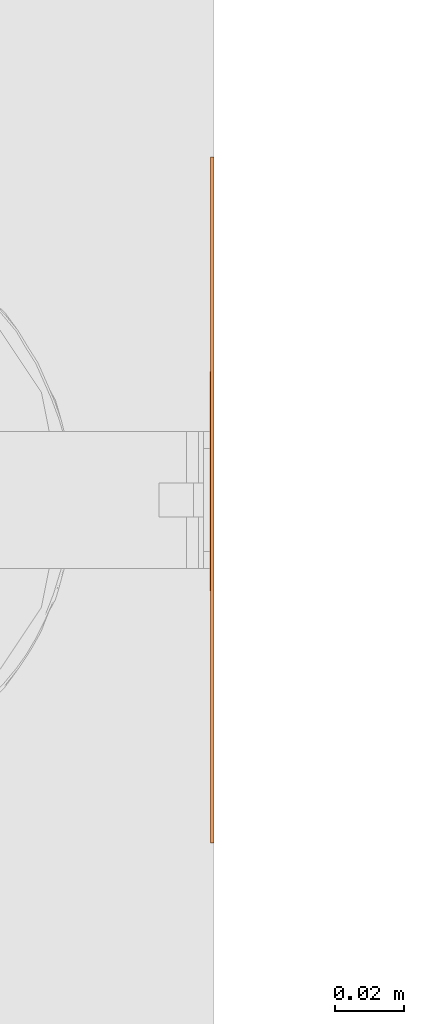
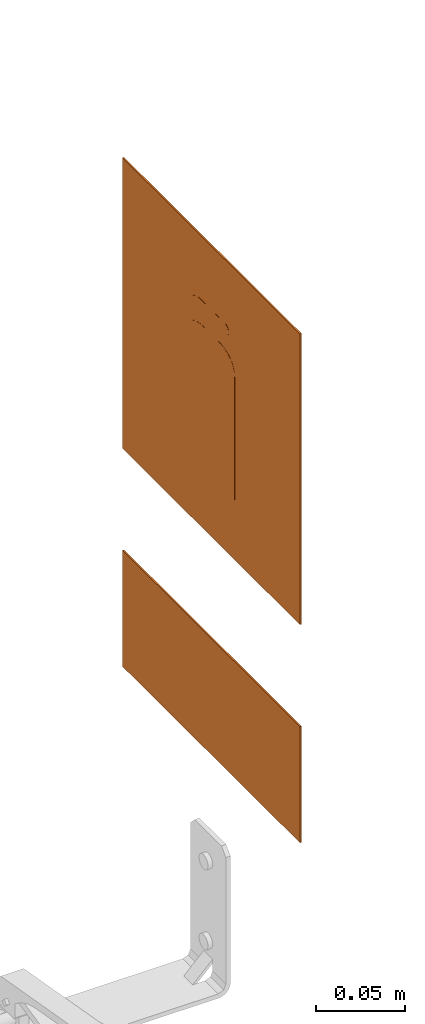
# One storey, part 28 of 119: 2 proxies.
"""IFC2X3 building model written with IfcOpenShell, lengths in metres."""

from ifc_helpers import new_model, entity, si_unit, converted_unit, derived_unit, direction, frame, frame_2d, origin, origin_2d_with_axis, place, context, subcontext, project, spatial, polyline, circle_curve, parameter, trimmed, segment, composite_curve, rectangle, outline, extrude, source, transform, mapped, material, material_list, type_object, type_shapes, element, save


model = new_model("IFC2X3")

# Units and contexts
model_context = context("Model", 3, precision=1e-05, world=origin(), true_north=direction((6.12303176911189e-17, 1.0)))
body_context = subcontext(model_context, "Body", "Model", "MODEL_VIEW")
ifc_project = project(units=[si_unit("LENGTHUNIT", "METRE"), si_unit("AREAUNIT", "SQUARE_METRE"), si_unit("VOLUMEUNIT", "CUBIC_METRE"), converted_unit("PLANEANGLEUNIT", "DEGREE", entity("IfcRatioMeasure", 0.0174532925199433), si_unit("PLANEANGLEUNIT", "RADIAN"), dimensions=[0, 0, 0, 0, 0, 0, 0]), si_unit("MASSUNIT", "GRAM", prefix="KILO"), derived_unit("MASSDENSITYUNIT", [(si_unit("MASSUNIT", "GRAM", prefix="KILO"), 1), (si_unit("LENGTHUNIT", "METRE"), -3)]), derived_unit("MOMENTOFINERTIAUNIT", [(si_unit("LENGTHUNIT", "METRE"), 4)]), si_unit("TIMEUNIT", "SECOND"), si_unit("FREQUENCYUNIT", "HERTZ"), si_unit("THERMODYNAMICTEMPERATUREUNIT", "DEGREE_CELSIUS"), derived_unit("THERMALTRANSMITTANCEUNIT", [(si_unit("MASSUNIT", "GRAM", prefix="KILO"), 1), (si_unit("THERMODYNAMICTEMPERATUREUNIT", "KELVIN"), -1), (si_unit("TIMEUNIT", "SECOND"), -3)]), derived_unit("VOLUMETRICFLOWRATEUNIT", [(si_unit("LENGTHUNIT", "METRE"), 3), (si_unit("TIMEUNIT", "SECOND"), -1)]), si_unit("ELECTRICCURRENTUNIT", "AMPERE"), si_unit("ELECTRICVOLTAGEUNIT", "VOLT"), si_unit("POWERUNIT", "WATT"), si_unit("FORCEUNIT", "NEWTON", prefix="KILO"), si_unit("ILLUMINANCEUNIT", "LUX"), si_unit("LUMINOUSFLUXUNIT", "LUMEN"), si_unit("LUMINOUSINTENSITYUNIT", "CANDELA"), derived_unit("USERDEFINED", [(si_unit("MASSUNIT", "GRAM", prefix="KILO"), -1), (si_unit("LENGTHUNIT", "METRE"), -2), (si_unit("TIMEUNIT", "SECOND"), 3), (si_unit("LUMINOUSFLUXUNIT", "LUMEN"), 1)]), derived_unit("LINEARVELOCITYUNIT", [(si_unit("LENGTHUNIT", "METRE"), 1), (si_unit("TIMEUNIT", "SECOND"), -1)]), si_unit("PRESSUREUNIT", "PASCAL"), derived_unit("USERDEFINED", [(si_unit("LENGTHUNIT", "METRE"), -2), (si_unit("MASSUNIT", "GRAM", prefix="KILO"), 1), (si_unit("TIMEUNIT", "SECOND"), -2)]), derived_unit("LINEARFORCEUNIT", [(si_unit("MASSUNIT", "GRAM", prefix="KILO"), 1), (si_unit("LENGTHUNIT", "METRE"), 1), (si_unit("TIMEUNIT", "SECOND"), -2), (si_unit("LENGTHUNIT", "METRE"), -1)]), derived_unit("PLANARFORCEUNIT", [(si_unit("MASSUNIT", "GRAM", prefix="KILO"), 1), (si_unit("LENGTHUNIT", "METRE"), 1), (si_unit("TIMEUNIT", "SECOND"), -2), (si_unit("LENGTHUNIT", "METRE"), -2)])], contexts=[model_context])

# Site, building, storey
site_placement = place(None, origin())
site = spatial("IfcSite", under=ifc_project, at=site_placement, Name="Default", CompositionType="ELEMENT")
building_placement = place(site_placement, origin())
building = spatial("IfcBuilding", under=site, at=building_placement, CompositionType="ELEMENT")
storey_placement = place(building_placement, origin())
storey = spatial("IfcBuildingStorey", under=building, at=storey_placement, Name="PAV. 01 - TÉRREO", CompositionType="ELEMENT", Elevation=0.0)

# Proxies
ifc_material_1 = material(Name="Plastico branco")
ifc_material_2 = material(Name="Plastico vermelho")
ifc_material_list_1 = material_list([ifc_material_1, ifc_material_2])
building_element_proxy_type_1 = type_object("IfcBuildingElementProxyType", Name="Sinalização de equipamentos - E05 - Extintor de incêndio:Distância 08m", PredefinedType="NOTDEFINED", material=ifc_material_1)
shared_shape_1 = source(origin(), body_context, "Body", "SweptSolid", [
    extrude(outline(composite_curve([segment(polyline([(-0.039533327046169, -0.0988107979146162), (0.0136590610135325, -0.0988107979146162)]), True, "CONTINUOUS"), segment(polyline([(0.0136590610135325, -0.0988107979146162), (0.0136590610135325, -0.0150548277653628)]), True, "CONTINUOUS"), segment(polyline([(0.0136590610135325, -0.0150548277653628), (0.0132403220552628, -0.0112272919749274)]), True, "CONTINUOUS"), segment(polyline([(0.0132403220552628, -0.0112272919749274), (0.0119841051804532, -0.00798860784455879)]), True, "CONTINUOUS"), segment(polyline([(0.0119841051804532, -0.00798860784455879), (0.00989041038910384, -0.00533877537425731)]), True, "CONTINUOUS"), segment(polyline([(0.00989041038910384, -0.00533877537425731), (0.00695923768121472, -0.00327779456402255)]), True, "CONTINUOUS"), segment(polyline([(0.00695923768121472, -0.00327779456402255), (0.00319058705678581, -0.00180566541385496)]), True, "CONTINUOUS"), segment(polyline([(0.00319058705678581, -0.00180566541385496), (-0.00141554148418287, -0.000922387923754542)]), True, "CONTINUOUS"), segment(polyline([(-0.00141554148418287, -0.000922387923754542), (-0.00685914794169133, -0.000627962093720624)]), True, "CONTINUOUS"), segment(polyline([(-0.00685914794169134, -0.000627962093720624), (-0.00685914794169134, 0.00837547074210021)]), True, "CONTINUOUS"), segment(polyline([(-0.00685914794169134, 0.00837547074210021), (0.000568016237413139, 0.00837547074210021)]), True, "CONTINUOUS"), segment(polyline([(0.000568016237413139, 0.00837547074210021), (0.021500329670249, -0.0075875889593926)]), True, "CONTINUOUS"), segment(polyline([(0.021500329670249, -0.0075875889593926), (0.021500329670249, -0.0104328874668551)]), True, "CONTINUOUS"), segment(polyline([(0.021500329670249, -0.0104328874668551), (0.0245059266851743, -0.0104328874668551)]), True, "CONTINUOUS"), segment(polyline([(0.0245059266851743, -0.0104328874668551), (0.0245059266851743, -0.00811335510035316)]), True, "CONTINUOUS"), segment(polyline([(0.0245059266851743, -0.00811335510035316), (0.0243642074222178, -0.00545038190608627)]), True, "CONTINUOUS"), segment(polyline([(0.0243642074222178, -0.00545038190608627), (0.0239570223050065, -0.0032112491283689)]), True, "CONTINUOUS"), segment(polyline([(0.0239570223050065, -0.0032112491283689), (0.0233113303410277, -0.00132119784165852)]), True, "CONTINUOUS"), segment(polyline([(0.0233113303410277, -0.00132119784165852), (0.0224540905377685, 0.00029453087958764)]), True, "CONTINUOUS"), segment(polyline([(0.0224540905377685, 0.00029453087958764), (0.0214122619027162, 0.00171069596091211)]), True, "CONTINUOUS"), segment(polyline([(0.0214122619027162, 0.00171069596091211), (0.0202128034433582, 0.00300205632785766)]), True, "CONTINUOUS"), segment(polyline([(0.0202128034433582, 0.00300205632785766), (0.0188826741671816, 0.00424337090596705)]), True, "CONTINUOUS"), segment(polyline([(0.0188826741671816, 0.00424337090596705), (0.0144021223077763, 0.00811180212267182)]), True, "CONTINUOUS"), segment(polyline([(0.0144021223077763, 0.00811180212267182), (0.0113518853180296, 0.0106145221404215)]), True, "CONTINUOUS"), segment(polyline([(0.0113518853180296, 0.0106145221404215), (0.0085825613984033, 0.0127576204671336)]), True, "CONTINUOUS"), segment(polyline([(0.0085825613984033, 0.0127576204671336), (0.00738733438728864, 0.0136170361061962)]), True, "CONTINUOUS"), segment(polyline([(0.00738733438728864, 0.0136170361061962), (0.00631521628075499, 0.0143235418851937)]), True, "CONTINUOUS"), segment(polyline([(0.00631521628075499, 0.0143235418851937), (0.00532850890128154, 0.0148903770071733)]), True, "CONTINUOUS"), segment(polyline([(0.00532850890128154, 0.0148903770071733), (0.00438926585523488, 0.0153309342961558)]), True, "CONTINUOUS"), segment(polyline([(0.00438926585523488, 0.0153309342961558), (0.00345954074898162, 0.0156586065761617)]), True, "CONTINUOUS"), segment(polyline([(0.00345954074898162, 0.0156586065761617), (0.00250138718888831, 0.0158867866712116)]), True, "CONTINUOUS"), segment(polyline([(0.00250138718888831, 0.0158867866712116), (0.00144087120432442, 0.0160289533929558)]), True, "CONTINUOUS"), segment(polyline([(0.00144087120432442, 0.0160289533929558), (-0.000108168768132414, 0.0160993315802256)]), True, "CONTINUOUS"), segment(polyline([(-0.000108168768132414, 0.0160993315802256), (-0.00685914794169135, 0.0160831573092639)]), True, "CONTINUOUS"), segment(polyline([(-0.00685914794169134, 0.0160831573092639), (-0.00685914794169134, 0.0213863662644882)]), True, "CONTINUOUS"), segment(polyline([(-0.00685914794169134, 0.0213863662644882), (-0.0177728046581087, 0.0213863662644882)]), True, "CONTINUOUS"), segment(polyline([(-0.0177728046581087, 0.0213863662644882), (-0.0177728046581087, 0.0160831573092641)]), True, "CONTINUOUS"), segment(polyline([(-0.0177728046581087, 0.0160831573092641), (-0.0288467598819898, 0.0160831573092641)]), True, "CONTINUOUS"), segment(trimmed(circle_curve(frame_2d((-0.0288467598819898, 0.0122293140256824), x_axis=(-1.0, 0.0)), 0.00385384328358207), [parameter(270.0)], [parameter(90.0000000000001)], True, "PARAMETER"), True, "CONTINUOUS"), segment(polyline([(-0.0288467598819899, 0.00837547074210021), (-0.0190151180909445, 0.00837547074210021)]), True, "CONTINUOUS"), segment(polyline([(-0.0190151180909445, 0.00837547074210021), (-0.0190151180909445, -0.000627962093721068)]), True, "CONTINUOUS"), segment(polyline([(-0.0190151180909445, -0.000627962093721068), (-0.024458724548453, -0.000922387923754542)]), True, "CONTINUOUS"), segment(polyline([(-0.024458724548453, -0.000922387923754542), (-0.0290648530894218, -0.00180566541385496)]), True, "CONTINUOUS"), segment(polyline([(-0.0290648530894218, -0.00180566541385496), (-0.0328335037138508, -0.00327779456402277)]), True, "CONTINUOUS"), segment(polyline([(-0.0328335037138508, -0.00327779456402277), (-0.03576467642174, -0.00533877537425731)]), True, "CONTINUOUS"), segment(polyline([(-0.03576467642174, -0.00533877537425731), (-0.0378583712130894, -0.00798860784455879)]), True, "CONTINUOUS"), segment(polyline([(-0.0378583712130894, -0.00798860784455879), (-0.0391145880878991, -0.0112272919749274)]), True, "CONTINUOUS"), segment(polyline([(-0.0391145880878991, -0.0112272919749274), (-0.039533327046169, -0.0150548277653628)]), True, "CONTINUOUS"), segment(polyline([(-0.039533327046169, -0.0150548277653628), (-0.039533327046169, -0.0988107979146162)]), True, "CONTINUOUS")], self_intersect=False)), frame((-0.0129371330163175, -0.0011, 1.94006139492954), z_axis=(0.0, 1.0, 0.0), x_axis=(-1.0, 0.0, 0.0)), (0.0, 0.0, 1.0), 0.0011),
    extrude(rectangle(XDim=0.001, YDim=0.179, at=origin_2d_with_axis()), frame((0.0, -0.0005, 1.8105), z_axis=(0.0, 0.0, 1.0), x_axis=(0.0, 1.0, 0.0)), (0.0, 0.0, 1.0), 0.179),
    extrude(outline(polyline([(-0.100000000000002, -0.1), (0.100000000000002, -0.1), (0.100000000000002, 0.1), (-0.100000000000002, 0.1), (-0.100000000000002, -0.1)]), holes=[polyline([(-0.0895000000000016, -0.0895000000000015), (-0.0895000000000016, 0.0894999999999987), (0.0894999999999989, 0.0894999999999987), (0.0894999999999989, -0.0895000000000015), (-0.0895000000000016, -0.0895000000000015)])]), frame((0.0, -0.001, 1.9), z_axis=(0.0, 1.0, 0.0), x_axis=(0.0, 0.0, -1.0)), (0.0, 0.0, 1.0), 0.001),
])
type_shapes(building_element_proxy_type_1, [shared_shape_1])
proxy_1_placement = place(storey_placement, frame((7.72406052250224, 4.28528889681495, 0.0), z_axis=(0.0, 0.0, 1.0), x_axis=(0.0, -1.0, 0.0)))
element("IfcBuildingElementProxy", 1, at=proxy_1_placement, inside=storey, type_object=building_element_proxy_type_1, material=ifc_material_list_1, Name="Sinalização de equipamentos - E05 - Extintor de incêndio:Distância 08m", ObjectType="Sinalização de equipamentos - E05 - Extintor de incêndio:Distância 08m", context=body_context, shape_type="MappedRepresentation", body=[
    mapped(shared_shape_1, transform((0.0, 0.0, 0.0), scale=1.0)),
])
ifc_material_3 = material(Name="Plastico Preto")
ifc_material_4 = material(Name="Plastico azul claro")
ifc_material_5 = material(Name="Plastico Verde")
ifc_material_list_2 = material_list([ifc_material_3, ifc_material_4, ifc_material_2, ifc_material_1, ifc_material_5])
building_element_proxy_type_2 = type_object("IfcBuildingElementProxyType", Name="Sinalização de equipamentos - E05 - Extintor de incêndio - TIPO 2:Placa de extintor - E6-A", PredefinedType="NOTDEFINED", material=ifc_material_3)
shared_shape_2 = source(origin(), body_context, "Body", "SweptSolid", [
    extrude(rectangle(XDim=0.001, YDim=0.0243464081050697, at=origin_2d_with_axis()), frame((0.0791678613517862, -0.0005, 0.0143679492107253), z_axis=(0.0, 0.0, 1.0), x_axis=(0.0, 1.0, 0.0)), (0.0, 0.0, 1.0), 0.0243153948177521),
    extrude(rectangle(XDim=0.001, YDim=0.0243464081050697, at=origin_2d_with_axis()), frame((0.0514092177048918, -0.0005, 0.0143679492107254), z_axis=(0.0, 0.0, 1.0), x_axis=(0.0, 1.0, 0.0)), (0.0, 0.0, 1.0), 0.0243153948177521),
    extrude(rectangle(XDim=0.001, YDim=0.0243464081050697, at=origin_2d_with_axis()), frame((0.023605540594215, -0.0005, 0.0143679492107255), z_axis=(0.0, 0.0, 1.0), x_axis=(0.0, 1.0, 0.0)), (0.0, 0.0, 1.0), 0.0243153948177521),
    extrude(rectangle(XDim=0.001, YDim=0.0243464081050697, at=origin_2d_with_axis()), frame((-0.00415310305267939, -0.0005, 0.0143679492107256), z_axis=(0.0, 0.0, 1.0), x_axis=(0.0, 1.0, 0.0)), (0.0, 0.0, 1.0), 0.0243153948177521),
    extrude(outline(polyline([(-0.0399999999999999, -0.1), (0.0399999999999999, -0.1), (0.0399999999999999, 0.1), (-0.0399999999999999, 0.1), (-0.0399999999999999, -0.1)]), holes=[polyline([(-0.0319999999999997, 0.091), (-0.0150022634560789, 0.091), (-0.0150022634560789, -0.091), (-0.0319999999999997, -0.091), (-0.0319999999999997, 0.091)]), polyline([(-0.010791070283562, 0.091), (0.0319999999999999, 0.091), (0.0319999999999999, 0.0473282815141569), (-0.010791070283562, 0.0473282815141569), (-0.010791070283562, 0.091)]), polyline([(0.00131665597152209, 0.0441091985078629), (0.0256320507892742, 0.0441091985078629), (0.0256320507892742, 0.0197627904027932), (0.00131665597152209, 0.0197627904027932), (0.00131665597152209, 0.0441091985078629)]), polyline([(0.00131665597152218, 0.0163263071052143), (0.0256320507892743, 0.0163263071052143), (0.0256320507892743, -0.00802010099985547), (0.00131665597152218, -0.00802010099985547), (0.00131665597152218, 0.0163263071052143)]), polyline([(0.00131665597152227, -0.0114323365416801), (0.0256320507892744, -0.0114323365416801), (0.0256320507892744, -0.0357787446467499), (0.00131665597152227, -0.0357787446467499), (0.00131665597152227, -0.0114323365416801)]), polyline([(0.00131665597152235, -0.0635824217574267), (0.00131665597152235, -0.039236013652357), (0.0256320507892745, -0.039236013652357), (0.0256320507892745, -0.0635824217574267), (0.00131665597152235, -0.0635824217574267)]), polyline([(0.00131665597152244, -0.0669946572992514), (0.0256320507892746, -0.0669946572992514), (0.0256320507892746, -0.091), (0.00131665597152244, -0.091), (0.00131665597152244, -0.0669946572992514)])]), frame((0.0, -0.001, 0.0399999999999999), z_axis=(0.0, 1.0, 0.0), x_axis=(0.0, 0.0, -1.0)), (0.0, 0.0, 1.0), 0.001),
    extrude(outline(composite_curve([segment(trimmed(circle_curve(frame_2d((-0.00182713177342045, 0.0030692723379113), x_axis=(1.0, 0.0)), 0.00333179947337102), [parameter(180.0)], [parameter(270.0)], True, "PARAMETER"), True, "CONTINUOUS"), segment(polyline([(-0.00182713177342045, -0.000262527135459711), (-0.000430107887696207, -0.000262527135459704)]), True, "CONTINUOUS"), segment(polyline([(-0.000430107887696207, -0.000262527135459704), (-0.000430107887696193, -0.00350797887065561)]), True, "CONTINUOUS"), segment(polyline([(-0.000430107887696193, -0.00350797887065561), (-0.00249820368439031, -0.00350797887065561)]), True, "CONTINUOUS"), segment(polyline([(-0.00249820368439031, -0.00350797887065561), (-0.00742535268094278, 7.18044171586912e-05)]), True, "CONTINUOUS"), segment(polyline([(-0.00742535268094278, 7.18044171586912e-05), (-0.00742535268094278, 0.00166630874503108)]), True, "CONTINUOUS"), segment(polyline([(-0.00742535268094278, 0.00166630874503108), (-0.00871124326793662, 0.00166630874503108)]), True, "CONTINUOUS"), segment(polyline([(-0.00871124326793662, 0.00166630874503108), (-0.00846384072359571, -0.00134355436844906)]), True, "CONTINUOUS"), segment(trimmed(circle_curve(frame_2d((-0.00608099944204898, -0.00114769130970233), x_axis=(1.0, 0.0)), 0.00239087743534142), [parameter(184.698993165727)], [parameter(232.0)], True, "PARAMETER"), True, "CONTINUOUS"), segment(polyline([(-0.00755297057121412, -0.00303172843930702), (-0.0030496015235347, -0.00655014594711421)]), True, "CONTINUOUS"), segment(polyline([(-0.0030496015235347, -0.00655014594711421), (-0.000124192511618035, -0.00655014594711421)]), True, "CONTINUOUS"), segment(polyline([(-0.000124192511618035, -0.00655014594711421), (-0.000124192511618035, -0.00788602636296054)]), True, "CONTINUOUS"), segment(polyline([(-0.000124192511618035, -0.00788602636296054), (0.003207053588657, -0.00788602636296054)]), True, "CONTINUOUS"), segment(polyline([(0.003207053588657, -0.00788602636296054), (0.003207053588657, -0.00698801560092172)]), True, "CONTINUOUS"), segment(polyline([(0.003207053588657, -0.00698801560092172), (0.00540783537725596, -0.00698801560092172)]), True, "CONTINUOUS"), segment(polyline([(0.00540783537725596, -0.00698801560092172), (0.00665542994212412, -0.00574042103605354)]), True, "CONTINUOUS"), segment(polyline([(0.00665542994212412, -0.00574042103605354), (0.00665542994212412, -0.00450724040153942)]), True, "CONTINUOUS"), segment(polyline([(0.00665542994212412, -0.00450724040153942), (0.00491919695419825, -0.00324579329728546)]), True, "CONTINUOUS"), segment(polyline([(0.00491919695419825, -0.00324579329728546), (0.00355615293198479, -0.00324579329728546)]), True, "CONTINUOUS"), segment(polyline([(0.00355615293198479, -0.00324579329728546), (0.00355615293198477, -0.000262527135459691)]), True, "CONTINUOUS"), segment(polyline([(0.00355615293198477, -0.000262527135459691), (0.00500257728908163, -0.000262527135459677)]), True, "CONTINUOUS"), segment(trimmed(circle_curve(frame_2d((0.00500257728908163, 0.00284153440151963), x_axis=(1.0, 0.0)), 0.00310406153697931), [parameter(270.0)], [parameter(1.52666624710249e-13)], True, "PARAMETER"), True, "CONTINUOUS"), segment(polyline([(0.00810663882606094, 0.00284153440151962), (0.0081066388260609, 0.0313568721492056)]), True, "CONTINUOUS"), segment(polyline([(0.0081066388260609, 0.0313568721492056), (-0.00515893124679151, 0.0313568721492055)]), True, "CONTINUOUS"), segment(polyline([(-0.00515893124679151, 0.0313568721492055), (-0.00515893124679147, 0.00306927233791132)]), True, "CONTINUOUS")], self_intersect=False)), frame((-0.0705753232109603, -0.001, 0.0413479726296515), z_axis=(0.0, 1.0, 0.0), x_axis=(1.0, 0.0, 0.0)), (0.0, 0.0, 1.0), 0.001),
    extrude(rectangle(XDim=0.001, YDim=0.0243464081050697, at=origin_2d_with_axis()), frame((-0.0319359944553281, -0.0005, 0.0143679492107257), z_axis=(0.0, 0.0, 1.0), x_axis=(0.0, 1.0, 0.0)), (0.0, 0.0, 1.0), 0.0243153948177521),
    extrude(outline(polyline([(-0.0218358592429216, -0.021395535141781), (0.0218358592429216, -0.021395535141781), (0.0218358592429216, 0.021395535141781), (-0.0218358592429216, 0.021395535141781), (-0.0218358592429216, -0.021395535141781)]), holes=[composite_curve([segment(polyline([(-0.00669545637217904, -0.0194044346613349), (-0.00669545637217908, 0.00911090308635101)]), True, "CONTINUOUS"), segment(trimmed(circle_curve(frame_2d((-0.00359139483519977, 0.00911090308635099), x_axis=(-1.0, 0.0)), 0.00310406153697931), [parameter(270.0)], [parameter(360.0)], True, "PARAMETER"), False, "CONTINUOUS"), segment(polyline([(-0.0035913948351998, 0.0122149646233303), (-0.00214497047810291, 0.0122149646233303)]), True, "CONTINUOUS"), segment(polyline([(-0.00214497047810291, 0.0122149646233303), (-0.00214497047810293, 0.0151982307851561)]), True, "CONTINUOUS"), segment(polyline([(-0.00214497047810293, 0.0151982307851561), (-0.0035080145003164, 0.0151982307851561)]), True, "CONTINUOUS"), segment(polyline([(-0.0035080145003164, 0.0151982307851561), (-0.00524424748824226, 0.01645967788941)]), True, "CONTINUOUS"), segment(polyline([(-0.00524424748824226, 0.01645967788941), (-0.00524424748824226, 0.0176928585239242)]), True, "CONTINUOUS"), segment(polyline([(-0.00524424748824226, 0.0176928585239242), (-0.0039966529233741, 0.0189404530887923)]), True, "CONTINUOUS"), segment(polyline([(-0.0039966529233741, 0.0189404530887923), (-0.00179587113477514, 0.0189404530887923)]), True, "CONTINUOUS"), segment(polyline([(-0.00179587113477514, 0.0189404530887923), (-0.00179587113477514, 0.0198384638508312)]), True, "CONTINUOUS"), segment(polyline([(-0.00179587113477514, 0.0198384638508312), (0.00153537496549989, 0.0198384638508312)]), True, "CONTINUOUS"), segment(polyline([(0.00153537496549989, 0.0198384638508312), (0.00153537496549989, 0.0185025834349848)]), True, "CONTINUOUS"), segment(polyline([(0.00153537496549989, 0.0185025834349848), (0.00446078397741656, 0.0185025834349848)]), True, "CONTINUOUS"), segment(polyline([(0.00446078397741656, 0.0185025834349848), (0.00896415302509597, 0.0149841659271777)]), True, "CONTINUOUS"), segment(trimmed(circle_curve(frame_2d((0.00749218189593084, 0.0131001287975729), x_axis=(-1.0, 0.0)), 0.00239087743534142), [parameter(184.698993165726)], [parameter(231.999999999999)], True, "PARAMETER"), False, "CONTINUOUS"), segment(polyline([(0.00987502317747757, 0.0132959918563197), (0.0101224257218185, 0.0102861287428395)]), True, "CONTINUOUS"), segment(polyline([(0.0101224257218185, 0.0102861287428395), (0.00883653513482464, 0.0102861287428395)]), True, "CONTINUOUS"), segment(polyline([(0.00883653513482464, 0.0102861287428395), (0.00883653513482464, 0.0118806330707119)]), True, "CONTINUOUS"), segment(polyline([(0.00883653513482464, 0.0118806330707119), (0.00390938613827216, 0.0154604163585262)]), True, "CONTINUOUS"), segment(polyline([(0.00390938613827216, 0.0154604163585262), (0.00184129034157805, 0.0154604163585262)]), True, "CONTINUOUS"), segment(polyline([(0.00184129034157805, 0.0154604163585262), (0.00184129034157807, 0.0122149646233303)]), True, "CONTINUOUS"), segment(polyline([(0.00184129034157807, 0.0122149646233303), (0.00323831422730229, 0.0122149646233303)]), True, "CONTINUOUS"), segment(trimmed(circle_curve(frame_2d((0.00323831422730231, 0.00888316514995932), x_axis=(-1.0, 0.0)), 0.00333179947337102), [parameter(180.0)], [parameter(270.0)], True, "PARAMETER"), False, "CONTINUOUS"), segment(polyline([(0.00657011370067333, 0.00888316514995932), (0.00657011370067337, -0.0194044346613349)]), True, "CONTINUOUS"), segment(polyline([(0.00657011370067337, -0.0194044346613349), (-0.00669545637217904, -0.0194044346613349)]), True, "CONTINUOUS")], self_intersect=False)]), frame((-0.0691641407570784, -0.001, 0.0293955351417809), z_axis=(0.0, 1.0, 0.0), x_axis=(-1.0, 0.0, 0.0)), (0.0, 0.0, 1.0), 0.001),
    extrude(rectangle(XDim=0.001, YDim=0.182, at=origin_2d_with_axis()), frame((0.0, -0.0005, 0.0550022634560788), z_axis=(0.0, 0.0, 1.0), x_axis=(0.0, 1.0, 0.0)), (0.0, 0.0, 1.0), 0.0169977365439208),
])
type_shapes(building_element_proxy_type_2, [shared_shape_2])
proxy_2_placement = place(storey_placement, frame((7.72406052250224, 4.28528889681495, 1.65), z_axis=(0.0, 0.0, 1.0), x_axis=(0.0, -1.0, 0.0)))
element("IfcBuildingElementProxy", 2, at=proxy_2_placement, inside=storey, type_object=building_element_proxy_type_2, material=ifc_material_list_2, Name="Sinalização de equipamentos - E05 - Extintor de incêndio - TIPO 2:Placa de extintor - E6-A", ObjectType="Sinalização de equipamentos - E05 - Extintor de incêndio - TIPO 2:Placa de extintor - E6-A", context=body_context, shape_type="MappedRepresentation", body=[
    mapped(shared_shape_2, transform((0.0, 0.0, 0.0), scale=1.0)),
])

save(model, "model.ifc")
